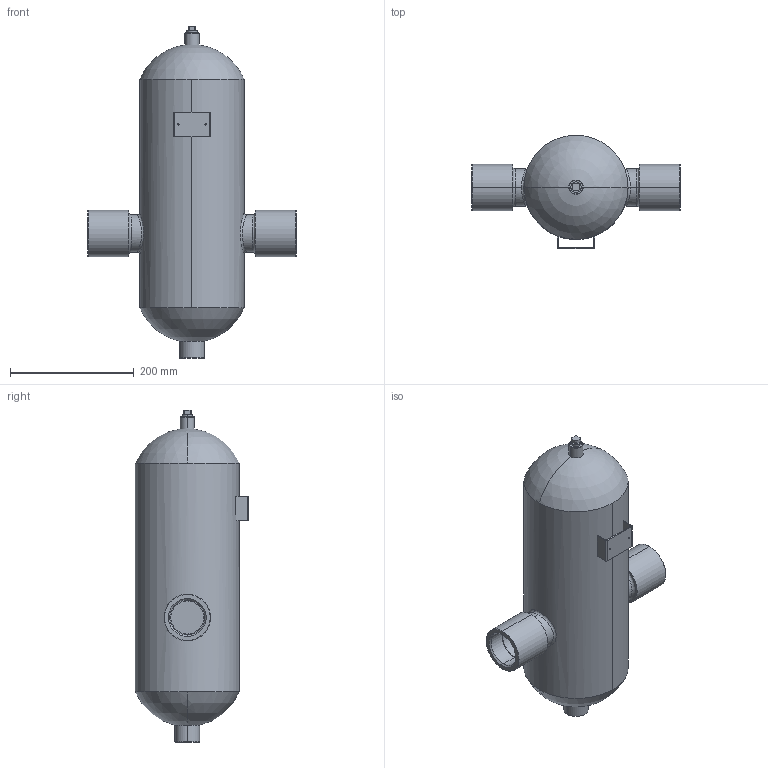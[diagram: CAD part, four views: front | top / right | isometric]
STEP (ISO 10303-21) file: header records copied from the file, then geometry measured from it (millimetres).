
FILE_DESCRIPTION( (''), '2;1');
FILE_NAME ('PC2078.19660.DS-10 50A_9761.stp','2026-03-10T12:51:06',(''),(''),'spGate 20.6.3 (****-****-****-****)','','');
FILE_SCHEMA (('AUTOMOTIVE_DESIGN'));
Length unit declared in the file: millimetre
Products named in the file (3): Assembly; 50A JIS Rc; 10Aプラグ
Assembly tree (2 placements, depth 2):
  Assembly
    50A JIS Rc
    10Aプラグ
Bounding box: 336 x 183.2 x 536 mm (x, y, z)
Volume: 1802610.9 mm3; surface area: 739904 mm2
Topology: 2 solids, 2 shells, 139 faces, 345 edges, 222 vertices
Faces by surface type: plane 68, cylinder 41, bspline 26, sphere 4
Entity records: 8602 total; most frequent: CARTESIAN_POINT 2602, ORIENTED_EDGE 690, DIRECTION 613, COLOUR_RGB 486, PRESENTATION_STYLE_ASSIGNMENT 486, STYLED_ITEM 486, EDGE_CURVE 345, DRAUGHTING_PRE_DEFINED_CURVE_FONT 345
